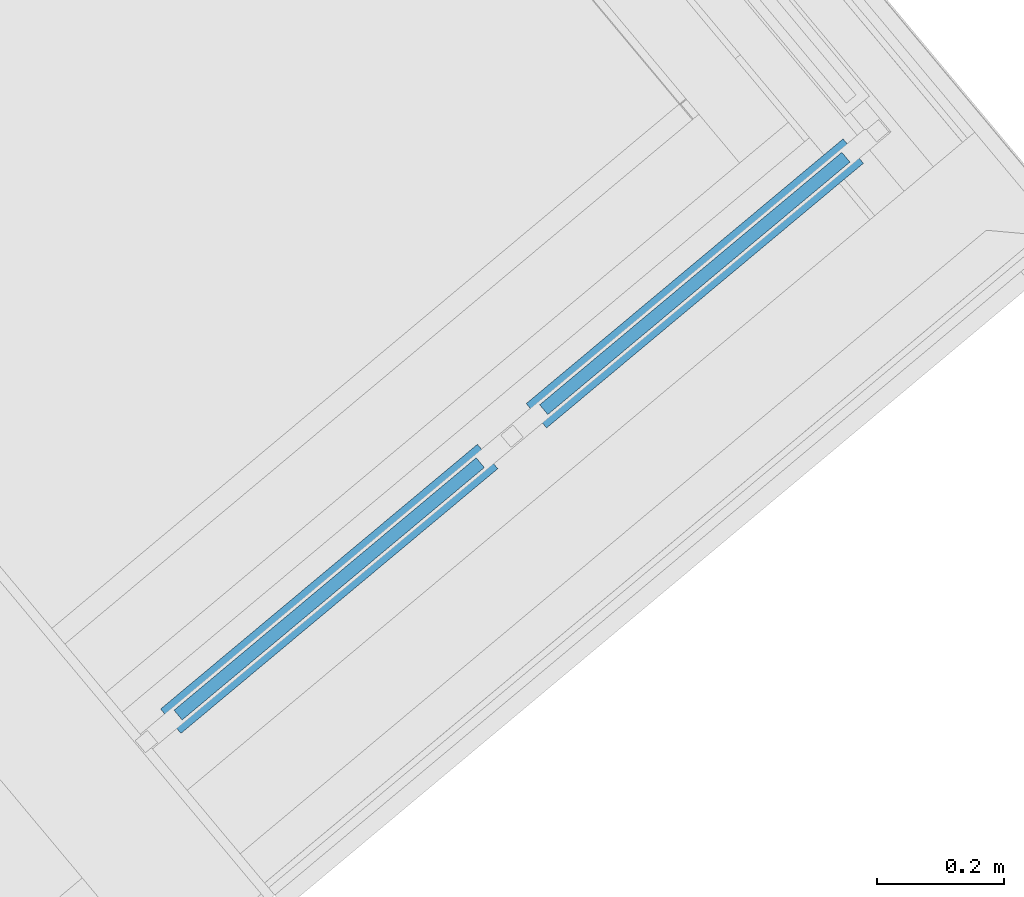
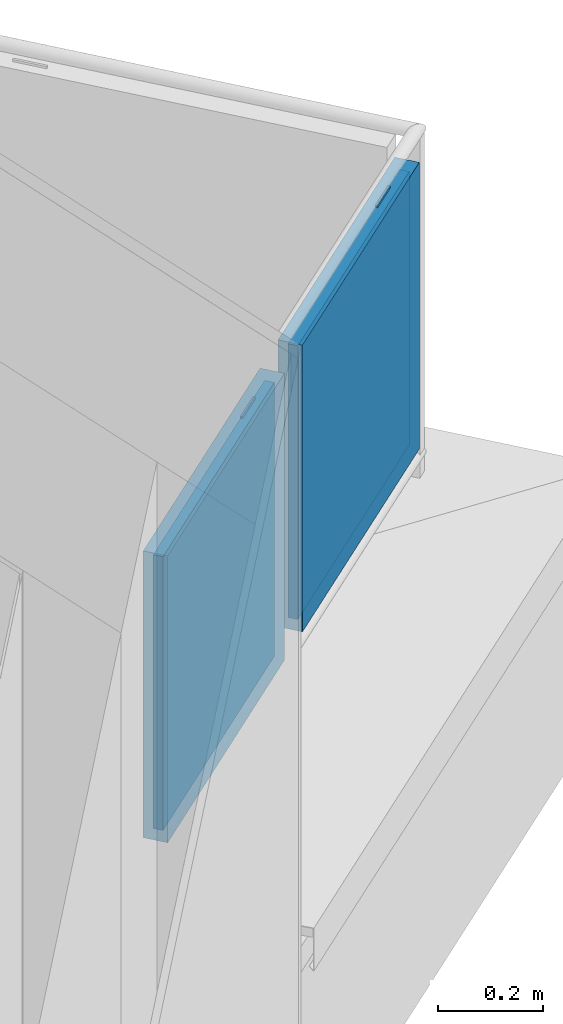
# One storey, part 45 of 58: 4 building element parts, 1 element without a shape of its own.
"""IFC4 building model written with IfcOpenShell, lengths in metres."""

import ifcopenshell
import ifcopenshell.guid

model = None  # the IFC model being written
_history = None  # IfcOwnerHistory: only IFC2X3 demands one
_inside = {}  # id of a spatial element -> (the spatial element, [elements in it])
_under = {}  # id of a project, library or spatial element -> (it, [spatial elements below it])
_declared = {}  # id of a project -> (the project, [libraries it declares])
_typed = {}  # id of a type object -> (the type object, [elements of that type])
_made_of = {}  # id of a material, layer set ... -> (it, [elements and type objects made of it])


def new_model(schema):
    """Start an empty IFC model of exactly this schema.

    Asked for "IFC4X3", IfcOpenShell would pick the latest addendum, in which some entities
    have other attributes; the version numbers below select the first issue.
    IFC2X3 requires an IfcOwnerHistory on every rooted entity: one is made here for all.
    """
    global model, _history
    if schema == "IFC4X3":
        model = ifcopenshell.file(schema_version=(4, 3, 0, 0))
    else:
        model = ifcopenshell.file(schema=schema)
    _inside.clear()
    _under.clear()
    _declared.clear()
    _typed.clear()
    _made_of.clear()
    _history = None
    if model.schema == "IFC2X3":
        org = make("IfcOrganization", Name="unknown")
        user = make(
            "IfcPersonAndOrganization",
            ThePerson=make("IfcPerson", FamilyName="unknown"),
            TheOrganization=org,
        )
        app = make(
            "IfcApplication",
            ApplicationDeveloper=org,
            Version="unknown",
            ApplicationFullName="unknown",
            ApplicationIdentifier="unknown",
        )
        _history = make(
            "IfcOwnerHistory",
            OwningUser=user,
            OwningApplication=app,
            ChangeAction="ADDED",
            CreationDate=0,
        )
    return model


def make(cls, **values):
    """One entity of the class cls with the attributes given. An attribute that is None is left unset."""
    return model.create_entity(
        cls, **{name: value for name, value in values.items() if value is not None}
    )


def entity(cls, *values):
    """Any entity or typed value of the class cls, its attributes in the order of the schema. None: left unset."""
    e = model.create_entity(cls)
    for i, value in enumerate(values):
        if value is not None:
            e[i] = value
    return e


def rooted(cls, **values):
    """An entity with a GlobalId (a new one), such as an element, a storey or a relation."""
    return make(cls, GlobalId=ifcopenshell.guid.new(), OwnerHistory=_history, **values)


def si_unit(unit_type, name, prefix=None):
    """IfcSIUnit, for example si_unit("LENGTHUNIT", "METRE", prefix="MILLI")."""
    return make("IfcSIUnit", UnitType=unit_type, Prefix=prefix, Name=name)


def converted_unit(unit_type, name, factor, base, dimensions=None, offset=None):
    """IfcConversionBasedUnit, such as the inch: factor (a typed value) times the base unit."""
    return make(
        "IfcConversionBasedUnit"
        if offset is None
        else "IfcConversionBasedUnitWithOffset",
        ConversionOffset=offset,
        Dimensions=None
        if dimensions is None
        else entity("IfcDimensionalExponents", *dimensions),
        UnitType=unit_type,
        Name=name,
        ConversionFactor=make(
            "IfcMeasureWithUnit", ValueComponent=factor, UnitComponent=base
        ),
    )


def derived_unit(unit_type, elements):
    """IfcDerivedUnit: a product of units, each with its exponent."""
    return make(
        "IfcDerivedUnit",
        Elements=[
            make("IfcDerivedUnitElement", Unit=unit, Exponent=power)
            for unit, power in elements
        ],
        UnitType=unit_type,
    )


def assignment(units):
    """IfcUnitAssignment: the units of a project."""
    return None if units is None else make("IfcUnitAssignment", Units=units)


def point(xyz):
    """IfcCartesianPoint."""
    return None if xyz is None else make("IfcCartesianPoint", Coordinates=xyz)


def direction(xyz):
    """IfcDirection."""
    return None if xyz is None else make("IfcDirection", DirectionRatios=xyz)


def frame(location, z_axis=None, x_axis=None):
    """IfcAxis2Placement3D, a coordinate frame: its origin and axes. An axis left out is left unset."""
    return make(
        "IfcAxis2Placement3D",
        Location=point(location),
        Axis=direction(z_axis),
        RefDirection=direction(x_axis),
    )


def origin_with_axes():
    """The frame at (0, 0, 0) with the z axis (0, 0, 1) and the x axis (1, 0, 0) written out."""
    return frame((0.0, 0.0, 0.0), z_axis=(0.0, 0.0, 1.0), x_axis=(1.0, 0.0, 0.0))


def place(relative_to, where):
    """IfcLocalPlacement: puts the frame where relative to a parent placement (None: the world)."""
    return make(
        "IfcLocalPlacement", PlacementRelTo=relative_to, RelativePlacement=where
    )


def context(
    kind, dimensions, precision=None, world=None, true_north=None, identifier=None
):
    """IfcGeometricRepresentationContext, for example the 3D "Model" context."""
    return make(
        "IfcGeometricRepresentationContext",
        ContextIdentifier=identifier,
        ContextType=kind,
        CoordinateSpaceDimension=dimensions,
        Precision=precision,
        WorldCoordinateSystem=world,
        TrueNorth=true_north,
    )


def subcontext(parent, identifier, kind, view, scale=None):
    """IfcGeometricRepresentationSubContext, for example "Body" below "Model"."""
    return make(
        "IfcGeometricRepresentationSubContext",
        ContextIdentifier=identifier,
        ContextType=kind,
        ParentContext=parent,
        TargetScale=scale,
        TargetView=view,
    )


def project(units=None, contexts=None):
    """IfcProject with its units and contexts."""
    return rooted(
        "IfcProject",
        Name="project",
        RepresentationContexts=contexts,
        UnitsInContext=assignment(units),
    )


def spatial(cls, under=None, at=None, **own):
    """A site, building, storey or space (cls), placed at a placement, below another one or the project."""
    s = rooted(cls, ObjectPlacement=at, **own)
    if under is not None:
        _under.setdefault(under.id(), (under, []))[1].append(s)
    return s


def point_list(points):
    """IfcCartesianPointList2D or 3D."""
    cls = (
        "IfcCartesianPointList2D" if len(points[0]) == 2 else "IfcCartesianPointList3D"
    )
    return make(cls, CoordList=points)


def polygons(points, faces, closed=None, point_numbers=None):
    """IfcPolygonalFaceSet: a face is its outer loop, then its inner loops; points numbered from 1."""
    made = []
    for loops in faces:
        if len(loops) == 1:
            made.append(make("IfcIndexedPolygonalFace", CoordIndex=loops[0]))
        else:
            made.append(
                make(
                    "IfcIndexedPolygonalFaceWithVoids",
                    CoordIndex=loops[0],
                    InnerCoordIndices=loops[1:],
                )
            )
    return make(
        "IfcPolygonalFaceSet",
        Coordinates=point_list(points),
        Closed=closed,
        Faces=made,
        PnIndex=point_numbers,
    )


def shape(context_of_items, identifier, shape_type, items):
    """IfcShapeRepresentation: the items that make up one representation, for example the "Body"."""
    return make(
        "IfcShapeRepresentation",
        ContextOfItems=context_of_items,
        RepresentationIdentifier=identifier,
        RepresentationType=shape_type,
        Items=items,
    )


def material(Name=None, Category=None):
    """IfcMaterial."""
    return make("IfcMaterial", Name=Name, Category=Category)


def made_of(thing, what):
    """Note that an element or type object is made of a material, layer set ...; save() writes the relation."""
    if what is not None:
        _made_of.setdefault(what.id(), (what, []))[1].append(thing)
    return thing


def type_object(cls, material=None, **own):
    """A type object (cls), such as IfcWallType, which elements share."""
    return made_of(rooted(cls, **own), material)


def element(
    cls,
    number,
    at=None,
    inside=None,
    cuts=None,
    type_object=None,
    material=None,
    context=None,
    identifier="Body",
    shape_type=None,
    held_by="IfcProductDefinitionShape",
    body=None,
    shapes=None,
    **own,
):
    """One element of the class cls, such as IfcWall. Its Tag is "e" and its number.

    at: its placement. inside: the storey or other place that contains it. cuts: it is an
    opening in that element (IfcRelVoidsElement). A single representation is given by context,
    identifier, shape_type and body (its items); several are given by shapes. held_by: the class
    of the entity that holds the representations. save() writes the other relations.
    """
    e = rooted(cls, Tag="e%d" % number, ObjectPlacement=at, **own)
    if body is not None:
        shapes = [shape(context, identifier, shape_type, body)]
    if shapes is not None:
        e.Representation = make(held_by, Representations=shapes)
    if inside is not None:
        _inside.setdefault(inside.id(), (inside, []))[1].append(e)
    if cuts is not None:
        rooted(
            "IfcRelVoidsElement", RelatingBuildingElement=cuts, RelatedOpeningElement=e
        )
    if type_object is not None:
        _typed.setdefault(type_object.id(), (type_object, []))[1].append(e)
    return made_of(e, material)


def aggregate(whole, parts):
    """IfcRelAggregates: a whole, such as a stair, and the parts it consists of."""
    return rooted("IfcRelAggregates", RelatingObject=whole, RelatedObjects=parts)


def save(model, path):
    """Write the relations noted so far, then the file.

    IfcRelAggregates (storeys below a building ...), IfcRelContainedInSpatialStructure (elements
    in a storey), IfcRelDefinesByType, IfcRelAssociatesMaterial and IfcRelDeclares: one each for
    every whole, place, type object, material and project.
    """
    for whole, parts in _under.values():
        aggregate(whole, parts)
    for where, things in _inside.values():
        rooted(
            "IfcRelContainedInSpatialStructure",
            RelatedElements=things,
            RelatingStructure=where,
        )
    for kind, things in _typed.values():
        rooted("IfcRelDefinesByType", RelatedObjects=things, RelatingType=kind)
    for what, things in _made_of.values():
        rooted("IfcRelAssociatesMaterial", RelatedObjects=things, RelatingMaterial=what)
    for by, libraries in _declared.values():
        rooted("IfcRelDeclares", RelatingContext=by, RelatedDefinitions=libraries)
    model.write(path)


model = new_model("IFC4")

# Units and contexts
model_context = context("Model", 3, precision=1e-05, world=origin_with_axes(), true_north=direction((0.0, 1.0)))
body_context = subcontext(model_context, "Body", "Model", "MODEL_VIEW")
ifc_project = project(units=[si_unit("LENGTHUNIT", "METRE"), si_unit("AREAUNIT", "SQUARE_METRE"), si_unit("VOLUMEUNIT", "CUBIC_METRE"), converted_unit("PLANEANGLEUNIT", "DEGREE", entity("IfcPlaneAngleMeasure", 0.0174532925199), si_unit("PLANEANGLEUNIT", "RADIAN"), dimensions=[0, 0, 0, 0, 0, 0, 0]), converted_unit("TIMEUNIT", "Year", entity("IfcTimeMeasure", 31556926.0), si_unit("TIMEUNIT", "SECOND"), dimensions=[0, 0, 1, 0, 0, 0, 0]), si_unit("MASSUNIT", "GRAM", prefix="KILO"), si_unit("THERMODYNAMICTEMPERATUREUNIT", "DEGREE_CELSIUS"), si_unit("LUMINOUSINTENSITYUNIT", "LUMEN"), si_unit("ENERGYUNIT", "JOULE", prefix="MEGA"), derived_unit("THERMALCONDUCTANCEUNIT", [(si_unit("POWERUNIT", "WATT"), 1), (si_unit("LENGTHUNIT", "METRE"), -1), (si_unit("THERMODYNAMICTEMPERATUREUNIT", "KELVIN"), -1)]), derived_unit("SPECIFICHEATCAPACITYUNIT", [(si_unit("ENERGYUNIT", "JOULE"), 1), (si_unit("MASSUNIT", "GRAM", prefix="KILO"), -1), (si_unit("THERMODYNAMICTEMPERATUREUNIT", "KELVIN"), -1)]), derived_unit("MASSDENSITYUNIT", [(si_unit("MASSUNIT", "GRAM", prefix="KILO"), 1), (si_unit("VOLUMEUNIT", "CUBIC_METRE"), -1)])], contexts=[model_context])

# Site, building, storey
site_placement = place(None, frame((-0.00153261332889, -0.00661245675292, 0.0), z_axis=(0.0, 0.0, 1.0), x_axis=(1.0, 0.0, 0.0)))
site = spatial("IfcSite", under=ifc_project, at=site_placement, Name="Site", CompositionType="ELEMENT")
building_placement = place(site_placement, origin_with_axes())
building = spatial("IfcBuilding", under=site, at=building_placement, Name="Building", CompositionType="ELEMENT")
storey_placement = place(building_placement, frame((0.0, 0.0, 5.7), z_axis=(0.0, 0.0, 1.0), x_axis=(1.0, 0.0, 0.0)))
storey = spatial("IfcBuildingStorey", under=building, at=storey_placement, Name="DG1", CompositionType="ELEMENT", Elevation=5.7)

# Railing, building element parts
railing_type = type_object("IfcRailingType", Name="Geländerart", PredefinedType="NOTDEFINED")
railing_placement = place(storey_placement, frame((13.1317464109, 20.5971564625, 0.38), z_axis=(0.0, 0.0, 1.0), x_axis=(1.0, 0.0, 0.0)))
railing = element("IfcRailing", 1, at=railing_placement, inside=storey, type_object=railing_type, Name="Geländer - 001", PredefinedType="NOTDEFINED")
ifc_material_1 = material(Name="Profilit")
building_element_part_1_placement = place(railing_placement, origin_with_axes())
building_element_part_1 = element("IfcBuildingElementPart", 2, at=building_element_part_1_placement, material=ifc_material_1, Name="Profilit", PredefinedType="NOTDEFINED", context=body_context, shape_type="Tessellation", body=[
    polygons([(0.583174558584, 0.369883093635, 0.135), (0.107589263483, -0.0273954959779, 0.135), (0.107589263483, -0.0273954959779, 0.775), (0.583174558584, 0.369883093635, 0.775), (0.120411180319, -0.0427447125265, 0.135), (0.59599647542, 0.354533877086, 0.135), (0.120411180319, -0.0427447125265, 0.775), (0.59599647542, 0.354533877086, 0.775)], [[[1, 2, 3, 4]], [[5, 2, 1, 6]], [[7, 3, 2, 5]], [[4, 3, 7, 8]], [[1, 4, 8, 6]], [[7, 5, 6, 8]]], closed=True),
])
ifc_material_2 = material(Name="Aluminium")
building_element_part_2_placement = place(railing_placement, origin_with_axes())
building_element_part_2 = element("IfcBuildingElementPart", 3, at=building_element_part_2_placement, material=ifc_material_2, Name="Aluminium", PredefinedType="NOTDEFINED", context=body_context, shape_type="Tessellation", body=[
    polygons([(0.177631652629, 0.0213416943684, 0.12), (0.231353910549, 0.0662184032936, 0.12), (0.231353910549, 0.0662184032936, 0.095), (0.177631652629, 0.0213416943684, 0.095), (0.180837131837, 0.0175043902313, 0.12), (0.234559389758, 0.0623810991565, 0.12), (0.234559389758, 0.0623810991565, 0.095), (0.180837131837, 0.0175043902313, 0.095)], [[[1, 2, 3, 4]], [[5, 6, 2, 1]], [[2, 6, 7, 3]], [[4, 3, 7, 8]], [[1, 4, 8, 5]], [[8, 7, 6, 5]]], closed=True),
    polygons([(0.522748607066, 0.309633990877, 0.79), (0.469026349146, 0.264757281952, 0.79), (0.469026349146, 0.264757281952, 0.795), (0.522748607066, 0.309633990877, 0.795), (0.525954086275, 0.30579668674, 0.79), (0.472231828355, 0.260919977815, 0.79), (0.472231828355, 0.260919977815, 0.795), (0.525954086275, 0.30579668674, 0.795)], [[[1, 2, 3, 4]], [[5, 6, 2, 1]], [[2, 6, 7, 3]], [[4, 3, 7, 8]], [[1, 4, 8, 5]], [[8, 7, 6, 5]]], closed=True),
    polygons([(0.118515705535, -0.0638730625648, 0.12), (0.0864609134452, -0.0255000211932, 0.12), (0.585070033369, 0.391011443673, 0.12), (0.617124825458, 0.352638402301, 0.12), (0.133864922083, -0.051051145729, 0.14), (0.124248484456, -0.0395392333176, 0.14), (0.120411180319, -0.0427447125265, 0.135), (0.107589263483, -0.0273954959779, 0.135), (0.111426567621, -0.0241900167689, 0.14), (0.101810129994, -0.0126781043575, 0.14), (0.56972081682, 0.378189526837, 0.14), (0.56972081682, 0.378189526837, 0.77), (0.101810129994, -0.0126781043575, 0.77), (0.101810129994, -0.0126781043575, 0.14), (0.0864609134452, -0.0255000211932, 0.12), (0.0864609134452, -0.0255000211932, 0.79), (0.585070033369, 0.391011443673, 0.79), (0.617124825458, 0.352638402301, 0.79), (0.118515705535, -0.0638730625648, 0.79), (0.118515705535, -0.0638730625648, 0.12), (0.133864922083, -0.051051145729, 0.14), (0.133864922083, -0.051051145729, 0.77), (0.60177560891, 0.339816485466, 0.77), (0.60177560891, 0.339816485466, 0.14), (0.592159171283, 0.351328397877, 0.14), (0.592159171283, 0.351328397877, 0.77), (0.124248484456, -0.0395392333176, 0.77), (0.124248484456, -0.0395392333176, 0.14), (0.120411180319, -0.0427447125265, 0.135), (0.120411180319, -0.0427447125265, 0.775), (0.59599647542, 0.354533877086, 0.775), (0.59599647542, 0.354533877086, 0.135), (0.583174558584, 0.369883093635, 0.135), (0.583174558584, 0.369883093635, 0.775), (0.107589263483, -0.0273954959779, 0.775), (0.107589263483, -0.0273954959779, 0.135), (0.111426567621, -0.0241900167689, 0.14), (0.111426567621, -0.0241900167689, 0.77), (0.579337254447, 0.366677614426, 0.77), (0.579337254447, 0.366677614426, 0.14)], [[[1, 2, 3, 4]], [[1, 5, 6, 7, 8, 9, 10, 2]], [[2, 10, 11, 12, 13, 14, 15, 16, 17, 3]], [[4, 3, 17, 18]], [[5, 1, 4, 18, 19, 20, 21, 22, 23, 24]], [[6, 5, 24, 25]], [[7, 6, 25, 26, 27, 28, 29, 30, 31, 32]], [[8, 7, 32, 33]], [[9, 8, 33, 34, 35, 36, 37, 38, 39, 40]], [[10, 9, 40, 11]], [[11, 40, 39, 12]], [[12, 39, 38, 13]], [[13, 38, 37, 14]], [[20, 15, 14, 37, 36, 29, 28, 21]], [[19, 16, 15, 20]], [[18, 17, 16, 19]], [[27, 22, 21, 28]], [[26, 23, 22, 27]], [[25, 24, 23, 26]], [[35, 30, 29, 36]], [[34, 31, 30, 35]], [[33, 32, 31, 34]]], closed=True),
])
building_element_part_3_placement = place(railing_placement, origin_with_axes())
building_element_part_3 = element("IfcBuildingElementPart", 4, at=building_element_part_3_placement, material=ifc_material_1, Name="Profilit", PredefinedType="NOTDEFINED", context=body_context, shape_type="Tessellation", body=[
    polygons([(1.15852976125, 0.85050414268, 0.135), (0.68294446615, 0.453225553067, 0.135), (0.68294446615, 0.453225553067, 0.775), (1.15852976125, 0.85050414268, 0.775), (0.695766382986, 0.437876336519, 0.135), (1.17135167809, 0.835154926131, 0.135), (0.695766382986, 0.437876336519, 0.775), (1.17135167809, 0.835154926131, 0.775)], [[[1, 2, 3, 4]], [[5, 2, 1, 6]], [[7, 3, 2, 5]], [[4, 3, 7, 8]], [[1, 4, 8, 6]], [[7, 5, 6, 8]]], closed=True),
])
building_element_part_4_placement = place(railing_placement, origin_with_axes())
building_element_part_4 = element("IfcBuildingElementPart", 5, at=building_element_part_4_placement, material=ifc_material_2, Name="Aluminium", PredefinedType="NOTDEFINED", context=body_context, shape_type="Tessellation", body=[
    polygons([(0.752986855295, 0.501962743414, 0.12), (0.806709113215, 0.546839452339, 0.12), (0.806709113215, 0.546839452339, 0.095), (0.752986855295, 0.501962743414, 0.095), (0.756192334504, 0.498125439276, 0.12), (0.809914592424, 0.543002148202, 0.12), (0.809914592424, 0.543002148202, 0.095), (0.756192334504, 0.498125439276, 0.095)], [[[1, 2, 3, 4]], [[5, 6, 2, 1]], [[2, 6, 7, 3]], [[4, 3, 7, 8]], [[1, 4, 8, 5]], [[8, 7, 6, 5]]], closed=True),
    polygons([(1.09810380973, 0.790255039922, 0.79), (1.04438155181, 0.745378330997, 0.79), (1.04438155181, 0.745378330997, 0.795), (1.09810380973, 0.790255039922, 0.795), (1.10130928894, 0.786417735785, 0.79), (1.04758703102, 0.74154102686, 0.79), (1.04758703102, 0.74154102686, 0.795), (1.10130928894, 0.786417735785, 0.795)], [[[1, 2, 3, 4]], [[5, 6, 2, 1]], [[2, 6, 7, 3]], [[4, 3, 7, 8]], [[1, 4, 8, 5]], [[8, 7, 6, 5]]], closed=True),
    polygons([(0.693870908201, 0.41674798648, 0.12), (0.661816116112, 0.455121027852, 0.12), (1.16042523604, 0.871632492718, 0.12), (1.19248002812, 0.833259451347, 0.12), (0.70922012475, 0.429569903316, 0.14), (0.699603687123, 0.441081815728, 0.14), (0.695766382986, 0.437876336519, 0.135), (0.68294446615, 0.453225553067, 0.135), (0.686781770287, 0.456431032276, 0.14), (0.67716533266, 0.467942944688, 0.14), (1.14507601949, 0.858810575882, 0.14), (1.14507601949, 0.858810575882, 0.77), (0.67716533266, 0.467942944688, 0.77), (0.67716533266, 0.467942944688, 0.14), (0.661816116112, 0.455121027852, 0.12), (0.661816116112, 0.455121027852, 0.79), (1.16042523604, 0.871632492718, 0.79), (1.19248002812, 0.833259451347, 0.79), (0.693870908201, 0.41674798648, 0.79), (0.693870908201, 0.41674798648, 0.12), (0.70922012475, 0.429569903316, 0.14), (0.70922012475, 0.429569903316, 0.77), (1.17713081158, 0.820437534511, 0.77), (1.17713081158, 0.820437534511, 0.14), (1.16751437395, 0.831949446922, 0.14), (1.16751437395, 0.831949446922, 0.77), (0.699603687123, 0.441081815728, 0.77), (0.699603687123, 0.441081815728, 0.14), (0.695766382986, 0.437876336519, 0.135), (0.695766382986, 0.437876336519, 0.775), (1.17135167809, 0.835154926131, 0.775), (1.17135167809, 0.835154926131, 0.135), (1.15852976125, 0.85050414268, 0.135), (1.15852976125, 0.85050414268, 0.775), (0.68294446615, 0.453225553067, 0.775), (0.68294446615, 0.453225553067, 0.135), (0.686781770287, 0.456431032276, 0.14), (0.686781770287, 0.456431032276, 0.77), (1.15469245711, 0.847298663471, 0.77), (1.15469245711, 0.847298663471, 0.14)], [[[1, 2, 3, 4]], [[1, 5, 6, 7, 8, 9, 10, 2]], [[2, 10, 11, 12, 13, 14, 15, 16, 17, 3]], [[4, 3, 17, 18]], [[5, 1, 4, 18, 19, 20, 21, 22, 23, 24]], [[6, 5, 24, 25]], [[7, 6, 25, 26, 27, 28, 29, 30, 31, 32]], [[8, 7, 32, 33]], [[9, 8, 33, 34, 35, 36, 37, 38, 39, 40]], [[10, 9, 40, 11]], [[11, 40, 39, 12]], [[12, 39, 38, 13]], [[13, 38, 37, 14]], [[20, 15, 14, 37, 36, 29, 28, 21]], [[19, 16, 15, 20]], [[18, 17, 16, 19]], [[27, 22, 21, 28]], [[26, 23, 22, 27]], [[25, 24, 23, 26]], [[35, 30, 29, 36]], [[34, 31, 30, 35]], [[33, 32, 31, 34]]], closed=True),
])
aggregate(railing, [building_element_part_1, building_element_part_2, building_element_part_3, building_element_part_4])

save(model, "model.ifc")
